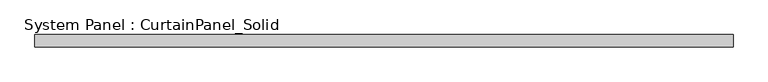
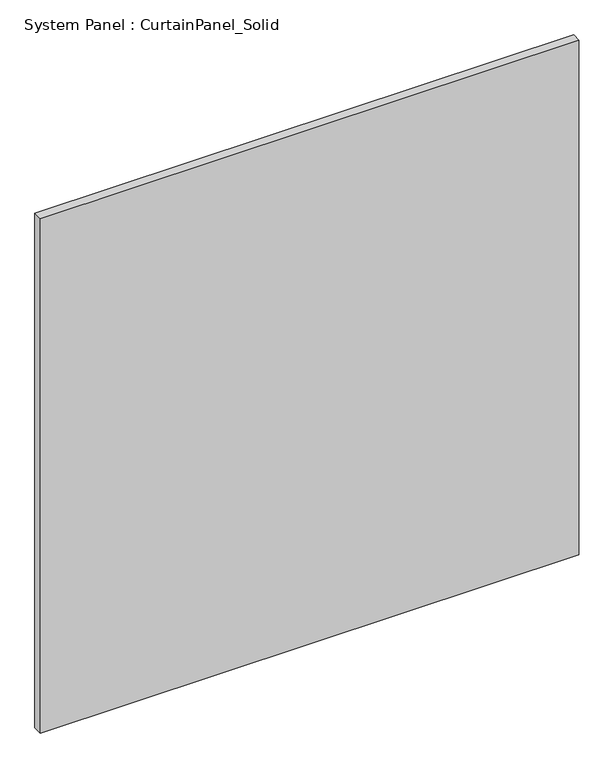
"""IFC4 building model written with IfcOpenShell, lengths in millimetres: plate geometry, System Panel : CurtainPanel_Solid."""

from ifc_helpers import new_model, si_unit, origin, origin_with_axes, place, context, project, spatial, polyline, outline, extrude, source, transform, mapped, element, save


def system_panel_curtainpanel_solid_78233117(model_context):
    return source(origin(), model_context, "Body", "SweptSolid", [
        extrude(outline(polyline([(718.0555557, -12.5), (-718.0555557, -12.5), (-718.0555557, 12.5), (718.0555557, 12.5), (718.0555557, -12.5)])), origin_with_axes(), (0.0, 0.0, 1.0), 1450.0),
    ])


if __name__ == "__main__":
    model = new_model("IFC4")
    model_context = context("Model", 3, world=origin())
    ifc_project = project(units=[si_unit("LENGTHUNIT", "METRE", prefix="MILLI")], contexts=[model_context])
    site = spatial("IfcSite", under=ifc_project)
    building = spatial("IfcBuilding", under=site)
    placement = place(None, origin())
    system_panel_curtainpanel_solid_shape = system_panel_curtainpanel_solid_78233117(model_context)
    element("IfcPlate", 1, ObjectType="System Panel : CurtainPanel_Solid", at=placement, inside=building, context=model_context, shape_type="MappedRepresentation", body=[
        mapped(system_panel_curtainpanel_solid_shape, transform((0.0, 0.0, 0.0), x_axis=(1.0, 0.0, 0.0), y_axis=(0.0, 1.0, 0.0), z_axis=(0.0, 0.0, 1.0))),
    ])
    save(model, "model.ifc")
